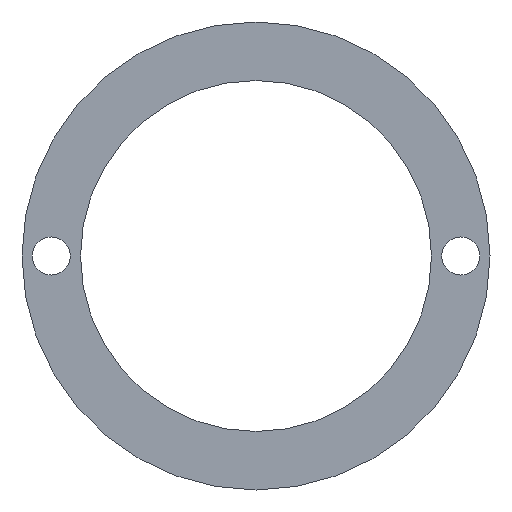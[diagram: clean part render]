
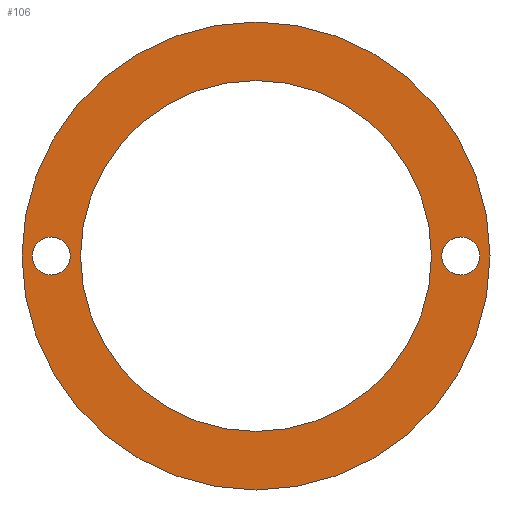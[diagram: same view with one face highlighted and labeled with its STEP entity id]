
A CAD part, front view. The second image highlights one B-rep face of the part: STEP entity #106.
In plain terms, the highlighted planar face has unit normal (0, -1, 0).
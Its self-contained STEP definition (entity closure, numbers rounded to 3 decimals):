
#1 = EDGE_CURVE ( 'NONE', #349, #80, #209, .T. ) ;
#10 = CIRCLE ( 'NONE', #347, 3.25 ) ;
#12 = DIRECTION ( 'NONE',  ( 0., 1., 0. ) ) ;
#13 = ORIENTED_EDGE ( 'NONE', *, *, #321, .T. ) ;
#14 = DIRECTION ( 'NONE',  ( 0., 1., 0. ) ) ;
#19 = CIRCLE ( 'NONE', #194, 30. ) ;
#30 = CARTESIAN_POINT ( 'NONE',  ( 0., 0., 30. ) ) ;
#31 = DIRECTION ( 'NONE',  ( 0., 0., 1. ) ) ;
#35 = CIRCLE ( 'NONE', #120, 3.25 ) ;
#43 = EDGE_CURVE ( 'NONE', #310, #149, #118, .T. ) ;
#51 = AXIS2_PLACEMENT_3D ( 'NONE', #60, #277, #215 ) ;
#56 = CARTESIAN_POINT ( 'NONE',  ( 0., 0., 0. ) ) ;
#60 = CARTESIAN_POINT ( 'NONE',  ( 0., 0., 0. ) ) ;
#62 = ORIENTED_EDGE ( 'NONE', *, *, #81, .T. ) ;
#65 = FACE_BOUND ( 'NONE', #286, .T. ) ;
#68 = DIRECTION ( 'NONE',  ( 0., 0., 1. ) ) ;
#72 = AXIS2_PLACEMENT_3D ( 'NONE', #303, #200, #180 ) ;
#75 = FACE_BOUND ( 'NONE', #94, .T. ) ;
#77 = ORIENTED_EDGE ( 'NONE', *, *, #1, .T. ) ;
#80 = VERTEX_POINT ( 'NONE', #291 ) ;
#81 = EDGE_CURVE ( 'NONE', #80, #349, #10, .T. ) ;
#85 = CARTESIAN_POINT ( 'NONE',  ( 0., 0., -40. ) ) ;
#86 = AXIS2_PLACEMENT_3D ( 'NONE', #124, #281, #360 ) ;
#88 = DIRECTION ( 'NONE',  ( 0., 1., 0. ) ) ;
#94 = EDGE_LOOP ( 'NONE', ( #77, #62 ) ) ;
#95 = CIRCLE ( 'NONE', #210, 30. ) ;
#106 = ADVANCED_FACE ( 'NONE', ( #254, #65, #313, #75 ), #255, .F. ) ;
#111 = DIRECTION ( 'NONE',  ( 0., 1., 0. ) ) ;
#118 = CIRCLE ( 'NONE', #51, 40. ) ;
#120 = AXIS2_PLACEMENT_3D ( 'NONE', #148, #302, #31 ) ;
#124 = CARTESIAN_POINT ( 'NONE',  ( -35., 0., 0. ) ) ;
#125 = EDGE_CURVE ( 'NONE', #149, #310, #239, .T. ) ;
#127 = AXIS2_PLACEMENT_3D ( 'NONE', #284, #14, #68 ) ;
#129 = EDGE_LOOP ( 'NONE', ( #246, #264 ) ) ;
#133 = ORIENTED_EDGE ( 'NONE', *, *, #125, .F. ) ;
#148 = CARTESIAN_POINT ( 'NONE',  ( -35., 0., 0. ) ) ;
#149 = VERTEX_POINT ( 'NONE', #244 ) ;
#161 = EDGE_CURVE ( 'NONE', #318, #325, #206, .T. ) ;
#180 = DIRECTION ( 'NONE',  ( 0., 0., 1. ) ) ;
#194 = AXIS2_PLACEMENT_3D ( 'NONE', #250, #111, #279 ) ;
#199 = CARTESIAN_POINT ( 'NONE',  ( -35., 0., -3.25 ) ) ;
#200 = DIRECTION ( 'NONE',  ( 0., 1., 0. ) ) ;
#206 = CIRCLE ( 'NONE', #86, 3.25 ) ;
#209 = CIRCLE ( 'NONE', #290, 3.25 ) ;
#210 = AXIS2_PLACEMENT_3D ( 'NONE', #56, #88, #224 ) ;
#211 = EDGE_LOOP ( 'NONE', ( #352, #133 ) ) ;
#215 = DIRECTION ( 'NONE',  ( 0., 0., 1. ) ) ;
#224 = DIRECTION ( 'NONE',  ( 0., 0., 1. ) ) ;
#232 = DIRECTION ( 'NONE',  ( 0., 0., 1. ) ) ;
#233 = CARTESIAN_POINT ( 'NONE',  ( 35., 0., 0. ) ) ;
#234 = DIRECTION ( 'NONE',  ( 0., 0., 1. ) ) ;
#239 = CIRCLE ( 'NONE', #127, 40. ) ;
#244 = CARTESIAN_POINT ( 'NONE',  ( 0., 0., 40. ) ) ;
#246 = ORIENTED_EDGE ( 'NONE', *, *, #161, .T. ) ;
#248 = CARTESIAN_POINT ( 'NONE',  ( 0., 0., -30. ) ) ;
#250 = CARTESIAN_POINT ( 'NONE',  ( 0., 0., 0. ) ) ;
#254 = FACE_OUTER_BOUND ( 'NONE', #211, .T. ) ;
#255 = PLANE ( 'NONE',  #72 ) ;
#260 = DIRECTION ( 'NONE',  ( 0., 1., 0. ) ) ;
#264 = ORIENTED_EDGE ( 'NONE', *, *, #305, .T. ) ;
#269 = VERTEX_POINT ( 'NONE', #30 ) ;
#273 = VERTEX_POINT ( 'NONE', #248 ) ;
#277 = DIRECTION ( 'NONE',  ( 0., 1., 0. ) ) ;
#278 = ORIENTED_EDGE ( 'NONE', *, *, #326, .T. ) ;
#279 = DIRECTION ( 'NONE',  ( 0., 0., 1. ) ) ;
#281 = DIRECTION ( 'NONE',  ( 0., 1., 0. ) ) ;
#282 = CARTESIAN_POINT ( 'NONE',  ( 35., 0., -3.25 ) ) ;
#284 = CARTESIAN_POINT ( 'NONE',  ( 0., 0., 0. ) ) ;
#286 = EDGE_LOOP ( 'NONE', ( #13, #278 ) ) ;
#290 = AXIS2_PLACEMENT_3D ( 'NONE', #332, #12, #234 ) ;
#291 = CARTESIAN_POINT ( 'NONE',  ( 35., 0., 3.25 ) ) ;
#302 = DIRECTION ( 'NONE',  ( 0., 1., 0. ) ) ;
#303 = CARTESIAN_POINT ( 'NONE',  ( 0., 0., 0. ) ) ;
#305 = EDGE_CURVE ( 'NONE', #325, #318, #35, .T. ) ;
#309 = CARTESIAN_POINT ( 'NONE',  ( -35., 0., 3.25 ) ) ;
#310 = VERTEX_POINT ( 'NONE', #85 ) ;
#313 = FACE_BOUND ( 'NONE', #129, .T. ) ;
#318 = VERTEX_POINT ( 'NONE', #199 ) ;
#321 = EDGE_CURVE ( 'NONE', #273, #269, #19, .T. ) ;
#325 = VERTEX_POINT ( 'NONE', #309 ) ;
#326 = EDGE_CURVE ( 'NONE', #269, #273, #95, .T. ) ;
#332 = CARTESIAN_POINT ( 'NONE',  ( 35., 0., 0. ) ) ;
#347 = AXIS2_PLACEMENT_3D ( 'NONE', #233, #260, #232 ) ;
#349 = VERTEX_POINT ( 'NONE', #282 ) ;
#352 = ORIENTED_EDGE ( 'NONE', *, *, #43, .F. ) ;
#360 = DIRECTION ( 'NONE',  ( 0., 0., 1. ) ) ;
